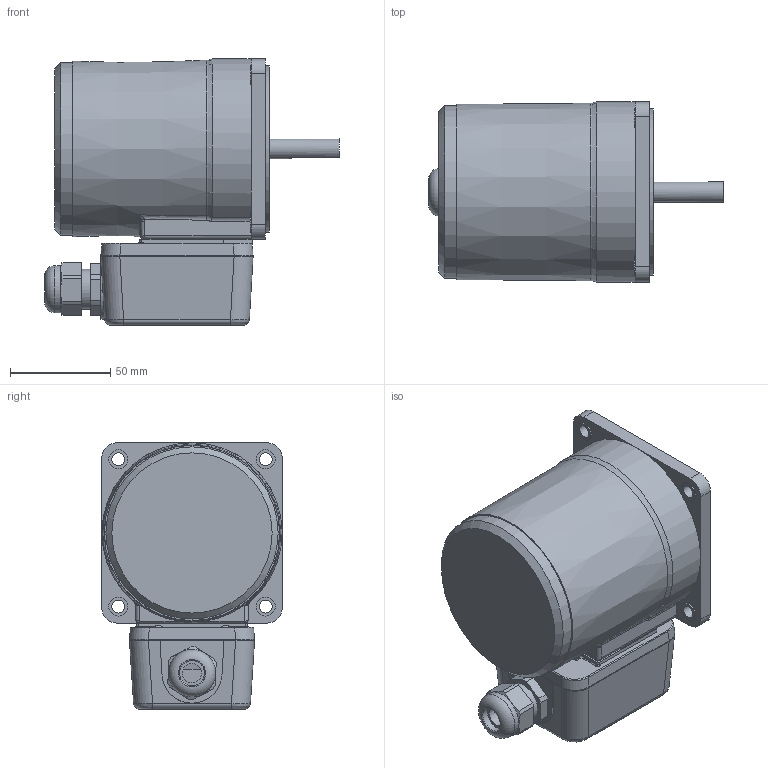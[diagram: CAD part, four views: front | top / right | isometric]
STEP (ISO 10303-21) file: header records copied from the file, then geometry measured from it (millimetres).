
FILE_DESCRIPTION((''),'2;1');
FILE_NAME('D:\STP파일\40W MOTOR\T BOX TYPE\S9(I,R)40K-T.stp','2013-05-20T18:01:40',('leebh'),(''),'Autodesk Inventor 2011','Autodesk Inventor 2011','');
FILE_SCHEMA(('AUTOMOTIVE_DESIGN { 1 0 10303 214 1 1 1 1 }'));
Length unit declared in the file: millimetre
Products named in the file (1): 부품1
Bounding box: 147 x 90 x 133 mm (x, y, z)
Volume: 853057 mm3; surface area: 71274.4 mm2
Topology: 1 solids, 9 shells, 378 faces, 931 edges, 590 vertices
Faces by surface type: plane 191, cylinder 115, bspline 50, torus 18, cone 4
Full cylindrical faces by diameter (mm): 2.55 x2, 5.6 x4, 6.3 x4, 6.5 x4, 9.5 x4, 10 x1, 12.5 x1, 15 x1, 20 x2, 21 x1, 23.6 x1, 40 x1, 83 x1, 86 x1
Entity records: 13059 total; most frequent: CARTESIAN_POINT 4248, ORIENTED_EDGE 1734, DIRECTION 1682, EDGE_CURVE 867, AXIS2_PLACEMENT_3D 606, VERTEX_POINT 577, VECTOR 470, LINE 470
